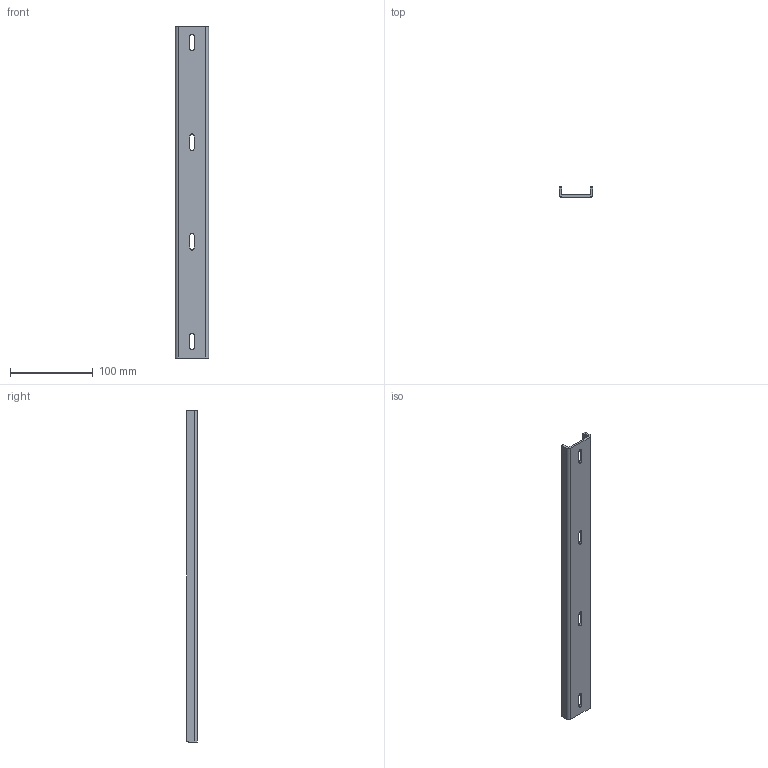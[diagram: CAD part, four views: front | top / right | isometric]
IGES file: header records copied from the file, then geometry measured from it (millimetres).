
Start section: SolidWorks IGES file using analytic representation for surfaces
Bounding box: 40 x 13 x 400 mm (x, y, z)
Surface area: 49237.5 mm2 (no closed solid volume)
Topology: 0 solids, 0 shells, 86 faces, 950 edges, 950 vertices
Faces by surface type: bspline 64, revolution 22
